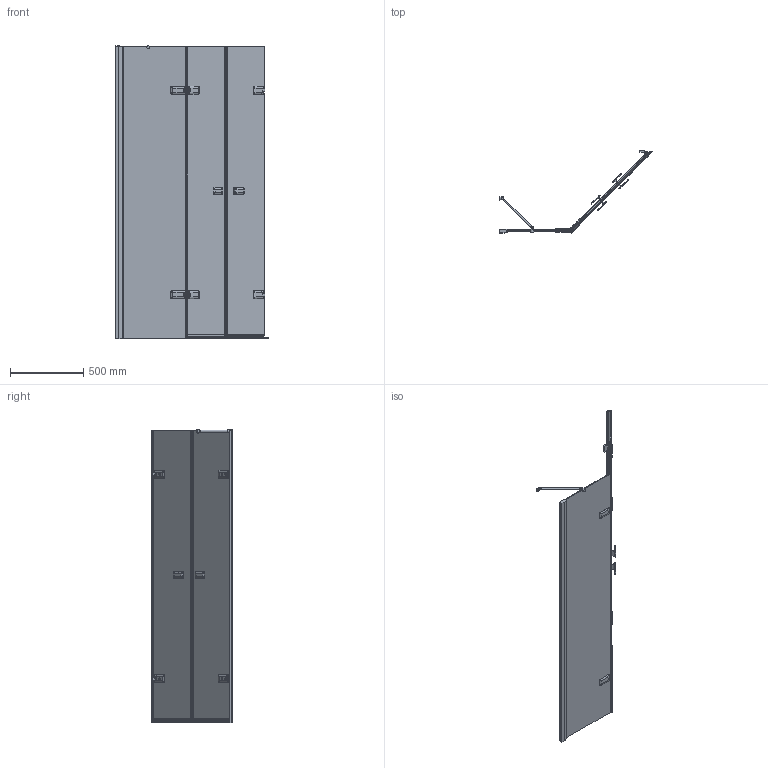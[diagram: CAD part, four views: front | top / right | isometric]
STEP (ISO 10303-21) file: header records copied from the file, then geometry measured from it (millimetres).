
FILE_DESCRIPTION(/* description */ (''),/* implementation_level */ '2;1');
FILE_NAME(/* name */ 'D:\1\ЭГ\TREND DOOR GK-863AGP135TWO\TREND DOOR GK-863AGP135TWO левая модель\TREND DOOR GK-863AGP135TWO ЛЕВАЯ-3D.stp',/* time_stamp */ '2023-07-04T10:28:35+03:00',/* author */ ('ChechurovS'),/* organization */ (''),/* preprocessor_version */ 'ST-DEVELOPER v15.2',/* originating_system */ 'Autodesk Inventor 2014',/* authorisation */ '');
FILE_SCHEMA (('AUTOMOTIVE_DESIGN { 1 0 10303 214 3 1 1 }'));
Products named in the file (1): TREND DOOR GK-863AGP135TWO ЛЕВАЯ-
3D
Bounding box: 1048.57 x 561.49 x 2009.49 mm (x, y, z)
Volume: 19449792.4 mm3; surface area: 5740088.3 mm2
Topology: 10 solids, 10 shells, 1845 faces, 5126 edges, 3245 vertices
Faces by surface type: plane 1096, cylinder 494, bspline 188, torus 37, cone 18, sphere 12
Full cylindrical faces by diameter (mm): 6 x2, 9 x8, 12 x2, 13 x2, 15 x1, 20 x2, 26 x1
Entity records: 80662 total; most frequent: CARTESIAN_POINT 32170, ORIENTED_EDGE 10032, DIRECTION 9319, EDGE_CURVE 5016, VERTEX_POINT 3233, LINE 3219, VECTOR 3219, AXIS2_PLACEMENT_3D 3050
